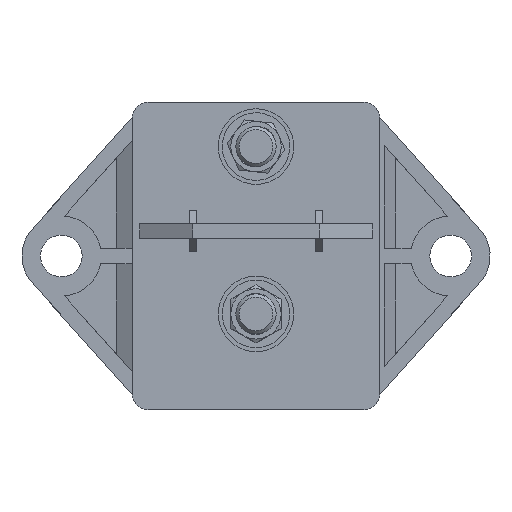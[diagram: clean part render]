
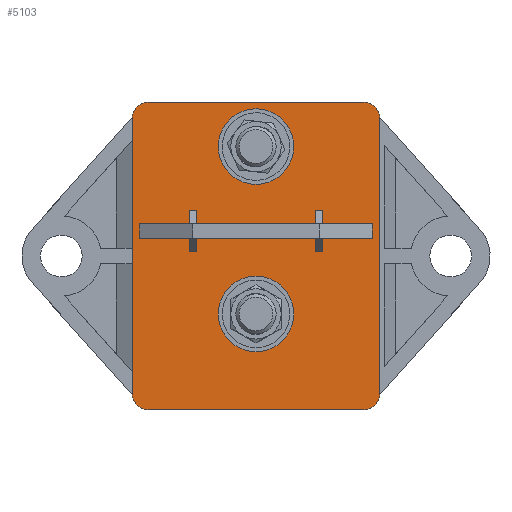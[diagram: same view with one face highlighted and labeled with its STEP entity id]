
A CAD part, front view. The second image highlights one B-rep face of the part: STEP entity #5103.
In plain terms, the highlighted planar face has unit normal (0, -1, 0).
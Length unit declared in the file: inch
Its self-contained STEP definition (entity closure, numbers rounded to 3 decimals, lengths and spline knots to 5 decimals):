
#150=CIRCLE('',#5365,0.1);
#152=CIRCLE('',#5368,0.1);
#153=CIRCLE('',#5370,0.1);
#155=CIRCLE('',#5373,0.1);
#167=CIRCLE('',#5441,0.235);
#169=CIRCLE('',#5443,0.235);
#170=CIRCLE('',#5446,0.235);
#172=CIRCLE('',#5448,0.235);
#211=FACE_BOUND('',#832,.T.);
#212=FACE_BOUND('',#833,.T.);
#213=FACE_BOUND('',#834,.T.);
#524=FACE_OUTER_BOUND('',#831,.T.);
#831=EDGE_LOOP('',(#4443,#4444,#4445,#4446,#4447,#4448,#4449,#4450));
#832=EDGE_LOOP('',(#4451,#4452));
#833=EDGE_LOOP('',(#4453,#4454));
#834=EDGE_LOOP('',(#4455,#4456,#4457,#4458,#4459,#4460,#4461,#4462,#4463,
#4464,#4465,#4466,#4467,#4468,#4469,#4470,#4471,#4472,#4473,#4474));
#1335=LINE('',#8429,#1794);
#1391=LINE('',#8598,#1850);
#1394=LINE('',#8603,#1853);
#1395=LINE('',#8605,#1854);
#1447=LINE('',#8741,#1906);
#1450=LINE('',#8749,#1909);
#1453=LINE('',#8756,#1912);
#1457=LINE('',#8763,#1916);
#1459=LINE('',#8766,#1918);
#1462=LINE('',#8773,#1921);
#1466=LINE('',#8780,#1925);
#1468=LINE('',#8783,#1927);
#1472=LINE('',#8792,#1931);
#1474=LINE('',#8796,#1933);
#1476=LINE('',#8799,#1935);
#1477=LINE('',#8803,#1936);
#1480=LINE('',#8807,#1939);
#1481=LINE('',#8809,#1940);
#1483=LINE('',#8813,#1942);
#1484=LINE('',#8816,#1943);
#1486=LINE('',#8819,#1945);
#1487=LINE('',#8823,#1946);
#1490=LINE('',#8827,#1949);
#1491=LINE('',#8829,#1950);
#1794=VECTOR('',#5962,1.34);
#1850=VECTOR('',#6130,1.71);
#1853=VECTOR('',#6135,1.71);
#1854=VECTOR('',#6138,1.34);
#1906=VECTOR('',#6284,0.09);
#1909=VECTOR('',#6289,0.09);
#1912=VECTOR('',#6294,0.74);
#1916=VECTOR('',#6298,0.308);
#1918=VECTOR('',#6300,0.308);
#1921=VECTOR('',#6305,0.74);
#1925=VECTOR('',#6309,0.308);
#1927=VECTOR('',#6311,0.308);
#1931=VECTOR('',#6319,0.0825);
#1933=VECTOR('',#6323,0.045);
#1935=VECTOR('',#6327,0.0825);
#1936=VECTOR('',#6330,0.045);
#1939=VECTOR('',#6335,0.0825);
#1940=VECTOR('',#6338,0.0825);
#1942=VECTOR('',#6342,0.0825);
#1943=VECTOR('',#6345,0.045);
#1945=VECTOR('',#6349,0.0825);
#1946=VECTOR('',#6352,0.045);
#1949=VECTOR('',#6357,0.0825);
#1950=VECTOR('',#6360,0.0825);
#2278=VERTEX_POINT('',#8426);
#2279=VERTEX_POINT('',#8428);
#2323=VERTEX_POINT('',#8561);
#2324=VERTEX_POINT('',#8566);
#2325=VERTEX_POINT('',#8570);
#2326=VERTEX_POINT('',#8572);
#2328=VERTEX_POINT('',#8578);
#2329=VERTEX_POINT('',#8580);
#2372=VERTEX_POINT('',#8735);
#2374=VERTEX_POINT('',#8739);
#2377=VERTEX_POINT('',#8746);
#2378=VERTEX_POINT('',#8748);
#2379=VERTEX_POINT('',#8752);
#2381=VERTEX_POINT('',#8755);
#2384=VERTEX_POINT('',#8761);
#2385=VERTEX_POINT('',#8765);
#2387=VERTEX_POINT('',#8771);
#2388=VERTEX_POINT('',#8772);
#2391=VERTEX_POINT('',#8778);
#2392=VERTEX_POINT('',#8782);
#2395=VERTEX_POINT('',#8791);
#2396=VERTEX_POINT('',#8795);
#2397=VERTEX_POINT('',#8801);
#2398=VERTEX_POINT('',#8802);
#2399=VERTEX_POINT('',#8811);
#2400=VERTEX_POINT('',#8815);
#2401=VERTEX_POINT('',#8821);
#2402=VERTEX_POINT('',#8822);
#2403=VERTEX_POINT('',#8831);
#2404=VERTEX_POINT('',#8832);
#2406=VERTEX_POINT('',#8840);
#2407=VERTEX_POINT('',#8841);
#2905=EDGE_CURVE('',#2278,#2279,#1335,.T.);
#2972=EDGE_CURVE('',#2323,#2278,#150,.T.);
#2974=EDGE_CURVE('',#2279,#2324,#152,.T.);
#2977=EDGE_CURVE('',#2325,#2326,#153,.T.);
#2981=EDGE_CURVE('',#2328,#2329,#155,.T.);
#2990=EDGE_CURVE('',#2329,#2323,#1391,.T.);
#2993=EDGE_CURVE('',#2324,#2325,#1394,.T.);
#2994=EDGE_CURVE('',#2326,#2328,#1395,.T.);
#3057=EDGE_CURVE('',#2372,#2374,#1447,.T.);
#3060=EDGE_CURVE('',#2378,#2377,#1450,.T.);
#3063=EDGE_CURVE('',#2381,#2379,#1453,.T.);
#3067=EDGE_CURVE('',#2377,#2384,#1457,.T.);
#3069=EDGE_CURVE('',#2385,#2372,#1459,.T.);
#3072=EDGE_CURVE('',#2387,#2388,#1462,.T.);
#3076=EDGE_CURVE('',#2391,#2374,#1466,.T.);
#3078=EDGE_CURVE('',#2378,#2392,#1468,.T.);
#3082=EDGE_CURVE('',#2395,#2392,#1472,.T.);
#3084=EDGE_CURVE('',#2396,#2395,#1474,.F.);
#3086=EDGE_CURVE('',#2396,#2387,#1476,.T.);
#3087=EDGE_CURVE('',#2397,#2398,#1477,.T.);
#3090=EDGE_CURVE('',#2384,#2397,#1480,.T.);
#3091=EDGE_CURVE('',#2381,#2398,#1481,.T.);
#3093=EDGE_CURVE('',#2399,#2391,#1483,.T.);
#3094=EDGE_CURVE('',#2399,#2400,#1484,.F.);
#3096=EDGE_CURVE('',#2400,#2388,#1486,.T.);
#3097=EDGE_CURVE('',#2401,#2402,#1487,.T.);
#3100=EDGE_CURVE('',#2385,#2402,#1490,.T.);
#3101=EDGE_CURVE('',#2379,#2401,#1491,.T.);
#3102=EDGE_CURVE('',#2403,#2404,#167,.F.);
#3105=EDGE_CURVE('',#2404,#2403,#169,.F.);
#3106=EDGE_CURVE('',#2406,#2407,#170,.F.);
#3109=EDGE_CURVE('',#2407,#2406,#172,.F.);
#4443=ORIENTED_EDGE('',*,*,#2972,.F.);
#4444=ORIENTED_EDGE('',*,*,#2990,.F.);
#4445=ORIENTED_EDGE('',*,*,#2981,.F.);
#4446=ORIENTED_EDGE('',*,*,#2994,.F.);
#4447=ORIENTED_EDGE('',*,*,#2977,.F.);
#4448=ORIENTED_EDGE('',*,*,#2993,.F.);
#4449=ORIENTED_EDGE('',*,*,#2974,.F.);
#4450=ORIENTED_EDGE('',*,*,#2905,.F.);
#4451=ORIENTED_EDGE('',*,*,#3106,.F.);
#4452=ORIENTED_EDGE('',*,*,#3109,.F.);
#4453=ORIENTED_EDGE('',*,*,#3102,.F.);
#4454=ORIENTED_EDGE('',*,*,#3105,.F.);
#4455=ORIENTED_EDGE('',*,*,#3063,.T.);
#4456=ORIENTED_EDGE('',*,*,#3101,.T.);
#4457=ORIENTED_EDGE('',*,*,#3097,.T.);
#4458=ORIENTED_EDGE('',*,*,#3100,.F.);
#4459=ORIENTED_EDGE('',*,*,#3069,.T.);
#4460=ORIENTED_EDGE('',*,*,#3057,.T.);
#4461=ORIENTED_EDGE('',*,*,#3076,.F.);
#4462=ORIENTED_EDGE('',*,*,#3093,.F.);
#4463=ORIENTED_EDGE('',*,*,#3094,.T.);
#4464=ORIENTED_EDGE('',*,*,#3096,.T.);
#4465=ORIENTED_EDGE('',*,*,#3072,.F.);
#4466=ORIENTED_EDGE('',*,*,#3086,.F.);
#4467=ORIENTED_EDGE('',*,*,#3084,.T.);
#4468=ORIENTED_EDGE('',*,*,#3082,.T.);
#4469=ORIENTED_EDGE('',*,*,#3078,.F.);
#4470=ORIENTED_EDGE('',*,*,#3060,.T.);
#4471=ORIENTED_EDGE('',*,*,#3067,.T.);
#4472=ORIENTED_EDGE('',*,*,#3090,.T.);
#4473=ORIENTED_EDGE('',*,*,#3087,.T.);
#4474=ORIENTED_EDGE('',*,*,#3091,.F.);
#4846=PLANE('',#5450);
#5103=ADVANCED_FACE('',(#524,#211,#212,#213),#4846,.F.);
#5365=AXIS2_PLACEMENT_3D('',#8563,#6098,#6099);
#5368=AXIS2_PLACEMENT_3D('',#8567,#6104,#6105);
#5370=AXIS2_PLACEMENT_3D('',#8573,#6110,#6111);
#5373=AXIS2_PLACEMENT_3D('',#8581,#6118,#6119);
#5441=AXIS2_PLACEMENT_3D('',#8833,#6363,#6364);
#5443=AXIS2_PLACEMENT_3D('',#8837,#6368,#6369);
#5446=AXIS2_PLACEMENT_3D('',#8842,#6374,#6375);
#5448=AXIS2_PLACEMENT_3D('',#8846,#6379,#6380);
#5450=AXIS2_PLACEMENT_3D('',#8848,#6383,#6384);
#5962=DIRECTION('',(1.,0.,0.));
#6098=DIRECTION('center_axis',(0.,1.,0.));
#6099=DIRECTION('ref_axis',(0.,0.,1.));
#6104=DIRECTION('center_axis',(0.,1.,0.));
#6105=DIRECTION('ref_axis',(0.,0.,1.));
#6110=DIRECTION('center_axis',(0.,1.,0.));
#6111=DIRECTION('ref_axis',(0.,0.,-1.));
#6118=DIRECTION('center_axis',(0.,1.,0.));
#6119=DIRECTION('ref_axis',(0.,0.,1.));
#6130=DIRECTION('',(0.,0.,1.));
#6135=DIRECTION('',(0.,0.,-1.));
#6138=DIRECTION('',(-1.,0.,0.));
#6284=DIRECTION('',(0.,0.,-1.));
#6289=DIRECTION('',(0.,0.,1.));
#6294=DIRECTION('',(1.,0.,0.));
#6298=DIRECTION('',(1.,0.,0.));
#6300=DIRECTION('',(1.,0.,0.));
#6305=DIRECTION('',(1.,0.,0.));
#6309=DIRECTION('',(1.,0.,0.));
#6311=DIRECTION('',(1.,0.,0.));
#6319=DIRECTION('',(0.,0.,1.));
#6323=DIRECTION('',(1.,0.,0.));
#6327=DIRECTION('',(0.,0.,1.));
#6330=DIRECTION('',(1.,0.,0.));
#6335=DIRECTION('',(0.,0.,1.));
#6338=DIRECTION('',(0.,0.,1.));
#6342=DIRECTION('',(0.,0.,1.));
#6345=DIRECTION('',(1.,0.,0.));
#6349=DIRECTION('',(0.,0.,1.));
#6352=DIRECTION('',(1.,0.,0.));
#6357=DIRECTION('',(0.,0.,1.));
#6360=DIRECTION('',(0.,0.,1.));
#6363=DIRECTION('center_axis',(0.,1.,0.));
#6364=DIRECTION('ref_axis',(0.,0.,1.));
#6368=DIRECTION('center_axis',(0.,1.,0.));
#6369=DIRECTION('ref_axis',(0.,0.,1.));
#6374=DIRECTION('center_axis',(0.,1.,0.));
#6375=DIRECTION('ref_axis',(0.,0.,1.));
#6379=DIRECTION('center_axis',(0.,1.,0.));
#6380=DIRECTION('ref_axis',(0.,0.,1.));
#6383=DIRECTION('center_axis',(0.,1.,0.));
#6384=DIRECTION('ref_axis',(0.,0.,1.));
#8426=CARTESIAN_POINT('',(-0.67,0.,0.955));
#8428=CARTESIAN_POINT('',(0.67,0.,0.955));
#8429=CARTESIAN_POINT('',(-0.67,0.,0.955));
#8561=CARTESIAN_POINT('',(-0.77,0.,0.855));
#8563=CARTESIAN_POINT('Origin',(-0.67,0.,0.855));
#8566=CARTESIAN_POINT('',(0.77,0.,0.855));
#8567=CARTESIAN_POINT('Origin',(0.67,0.,0.855));
#8570=CARTESIAN_POINT('',(0.77,0.,-0.855));
#8572=CARTESIAN_POINT('',(0.67,0.,-0.955));
#8573=CARTESIAN_POINT('Origin',(0.67,0.,-0.855));
#8578=CARTESIAN_POINT('',(-0.67,0.,-0.955));
#8580=CARTESIAN_POINT('',(-0.77,0.,-0.855));
#8581=CARTESIAN_POINT('Origin',(-0.67,0.,-0.855));
#8598=CARTESIAN_POINT('',(-0.77,0.,-0.855));
#8603=CARTESIAN_POINT('',(0.77,0.,0.855));
#8605=CARTESIAN_POINT('',(0.67,0.,-0.955));
#8735=CARTESIAN_POINT('',(0.723,0.,0.2));
#8739=CARTESIAN_POINT('',(0.723,0.,0.11));
#8741=CARTESIAN_POINT('',(0.723,0.,0.2));
#8746=CARTESIAN_POINT('',(-0.723,0.,0.2));
#8748=CARTESIAN_POINT('',(-0.723,0.,0.11));
#8749=CARTESIAN_POINT('',(-0.723,0.,0.11));
#8752=CARTESIAN_POINT('',(0.37,0.,0.2));
#8755=CARTESIAN_POINT('',(-0.37,0.,0.2));
#8756=CARTESIAN_POINT('',(-0.37,0.,0.2));
#8761=CARTESIAN_POINT('',(-0.415,0.,0.2));
#8763=CARTESIAN_POINT('',(-0.723,0.,0.2));
#8765=CARTESIAN_POINT('',(0.415,0.,0.2));
#8766=CARTESIAN_POINT('',(0.415,0.,0.2));
#8771=CARTESIAN_POINT('',(-0.37,0.,0.11));
#8772=CARTESIAN_POINT('',(0.37,0.,0.11));
#8773=CARTESIAN_POINT('',(-0.37,0.,0.11));
#8778=CARTESIAN_POINT('',(0.415,0.,0.11));
#8780=CARTESIAN_POINT('',(0.415,0.,0.11));
#8782=CARTESIAN_POINT('',(-0.415,0.,0.11));
#8783=CARTESIAN_POINT('',(-0.723,0.,0.11));
#8791=CARTESIAN_POINT('',(-0.415,0.,0.0275));
#8792=CARTESIAN_POINT('',(-0.415,0.,0.0275));
#8795=CARTESIAN_POINT('',(-0.37,0.,0.0275));
#8796=CARTESIAN_POINT('',(-0.415,0.,0.0275));
#8799=CARTESIAN_POINT('',(-0.37,0.,0.0275));
#8801=CARTESIAN_POINT('',(-0.415,0.,0.2825));
#8802=CARTESIAN_POINT('',(-0.37,0.,0.2825));
#8803=CARTESIAN_POINT('',(-0.415,0.,0.2825));
#8807=CARTESIAN_POINT('',(-0.415,0.,0.2));
#8809=CARTESIAN_POINT('',(-0.37,0.,0.2));
#8811=CARTESIAN_POINT('',(0.415,0.,0.0275));
#8813=CARTESIAN_POINT('',(0.415,0.,0.0275));
#8815=CARTESIAN_POINT('',(0.37,0.,0.0275));
#8816=CARTESIAN_POINT('',(0.37,0.,0.0275));
#8819=CARTESIAN_POINT('',(0.37,0.,0.0275));
#8821=CARTESIAN_POINT('',(0.37,0.,0.2825));
#8822=CARTESIAN_POINT('',(0.415,0.,0.2825));
#8823=CARTESIAN_POINT('',(0.37,0.,0.2825));
#8827=CARTESIAN_POINT('',(0.415,0.,0.2));
#8829=CARTESIAN_POINT('',(0.37,0.,0.2));
#8831=CARTESIAN_POINT('',(0.,0.,0.915));
#8832=CARTESIAN_POINT('',(0.,0.,0.445));
#8833=CARTESIAN_POINT('Origin',(0.,0.,0.68));
#8837=CARTESIAN_POINT('Origin',(0.,0.,0.68));
#8840=CARTESIAN_POINT('',(0.,0.,-0.125));
#8841=CARTESIAN_POINT('',(0.,0.,-0.595));
#8842=CARTESIAN_POINT('Origin',(0.,0.,-0.36));
#8846=CARTESIAN_POINT('Origin',(0.,0.,-0.36));
#8848=CARTESIAN_POINT('Origin',(-0.67,0.,0.855));
